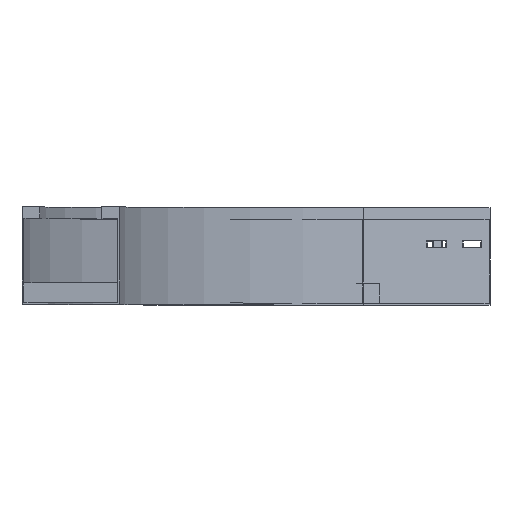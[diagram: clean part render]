
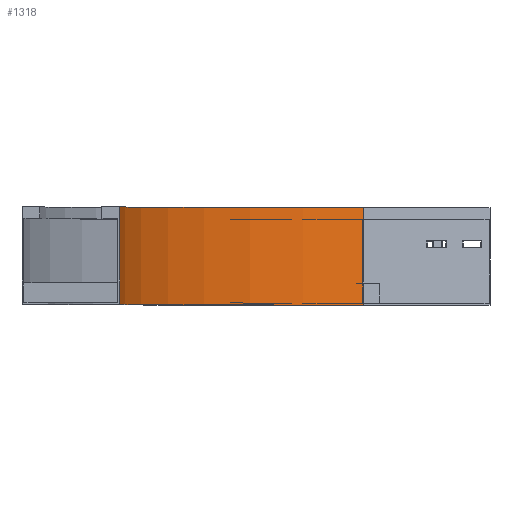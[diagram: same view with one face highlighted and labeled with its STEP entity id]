
A CAD part, top view. The second image highlights one B-rep face of the part: STEP entity #1318.
In plain terms, the highlighted cylindrical face has radius 500 mm (diameter 1000 mm), a partial arc.
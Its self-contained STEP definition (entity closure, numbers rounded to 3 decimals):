
#229 = VERTEX_POINT ( 'NONE', #3452 ) ;
#332 = CYLINDRICAL_SURFACE ( 'NONE', #2695, 500. ) ;
#359 = CARTESIAN_POINT ( 'NONE',  ( 500., 0., -150. ) ) ;
#415 = ORIENTED_EDGE ( 'NONE', *, *, #2166, .T. ) ;
#539 = VERTEX_POINT ( 'NONE', #2588 ) ;
#613 = DIRECTION ( 'NONE',  ( 0., 1., 0. ) ) ;
#806 = DIRECTION ( 'NONE',  ( 0., 0., -1. ) ) ;
#842 = DIRECTION ( 'NONE',  ( 0., -1., 0. ) ) ;
#856 = ORIENTED_EDGE ( 'NONE', *, *, #1442, .F. ) ;
#891 = VECTOR ( 'NONE', #613, 1000. ) ;
#948 = DIRECTION ( 'NONE',  ( 0., -1., 0. ) ) ;
#1118 = EDGE_LOOP ( 'NONE', ( #856, #3481, #415, #2607 ) ) ;
#1200 = LINE ( 'NONE', #2390, #891 ) ;
#1307 = CIRCLE ( 'NONE', #1439, 500. ) ;
#1318 = ADVANCED_FACE ( 'NONE', ( #2016 ), #332, .F. ) ;
#1439 = AXIS2_PLACEMENT_3D ( 'NONE', #2754, #948, #3705 ) ;
#1442 = EDGE_CURVE ( 'NONE', #1771, #539, #1307, .T. ) ;
#1487 = DIRECTION ( 'NONE',  ( 0., 1., 0. ) ) ;
#1543 = DIRECTION ( 'NONE',  ( -1., 0., 0. ) ) ;
#1771 = VERTEX_POINT ( 'NONE', #2453 ) ;
#1835 = LINE ( 'NONE', #3036, #2902 ) ;
#1899 = AXIS2_PLACEMENT_3D ( 'NONE', #359, #3051, #1543 ) ;
#2016 = FACE_OUTER_BOUND ( 'NONE', #1118, .T. ) ;
#2105 = CARTESIAN_POINT ( 'NONE',  ( 500., 0., -150. ) ) ;
#2166 = EDGE_CURVE ( 'NONE', #229, #2662, #3403, .T. ) ;
#2390 = CARTESIAN_POINT ( 'NONE',  ( 0., 0., -150. ) ) ;
#2453 = CARTESIAN_POINT ( 'NONE',  ( 0., 100., -150. ) ) ;
#2536 = EDGE_CURVE ( 'NONE', #2662, #539, #1835, .T. ) ;
#2584 = EDGE_CURVE ( 'NONE', #229, #1771, #1200, .T. ) ;
#2588 = CARTESIAN_POINT ( 'NONE',  ( 250., 100., -583.013 ) ) ;
#2607 = ORIENTED_EDGE ( 'NONE', *, *, #2536, .T. ) ;
#2662 = VERTEX_POINT ( 'NONE', #3293 ) ;
#2695 = AXIS2_PLACEMENT_3D ( 'NONE', #2105, #842, #806 ) ;
#2754 = CARTESIAN_POINT ( 'NONE',  ( 500., 100., -150. ) ) ;
#2902 = VECTOR ( 'NONE', #1487, 1000. ) ;
#3036 = CARTESIAN_POINT ( 'NONE',  ( 250., 0., -583.013 ) ) ;
#3051 = DIRECTION ( 'NONE',  ( 0., -1., 0. ) ) ;
#3293 = CARTESIAN_POINT ( 'NONE',  ( 250., 0., -583.013 ) ) ;
#3403 = CIRCLE ( 'NONE', #1899, 500. ) ;
#3452 = CARTESIAN_POINT ( 'NONE',  ( 0., 0., -150. ) ) ;
#3481 = ORIENTED_EDGE ( 'NONE', *, *, #2584, .F. ) ;
#3705 = DIRECTION ( 'NONE',  ( -1., 0., 0. ) ) ;
